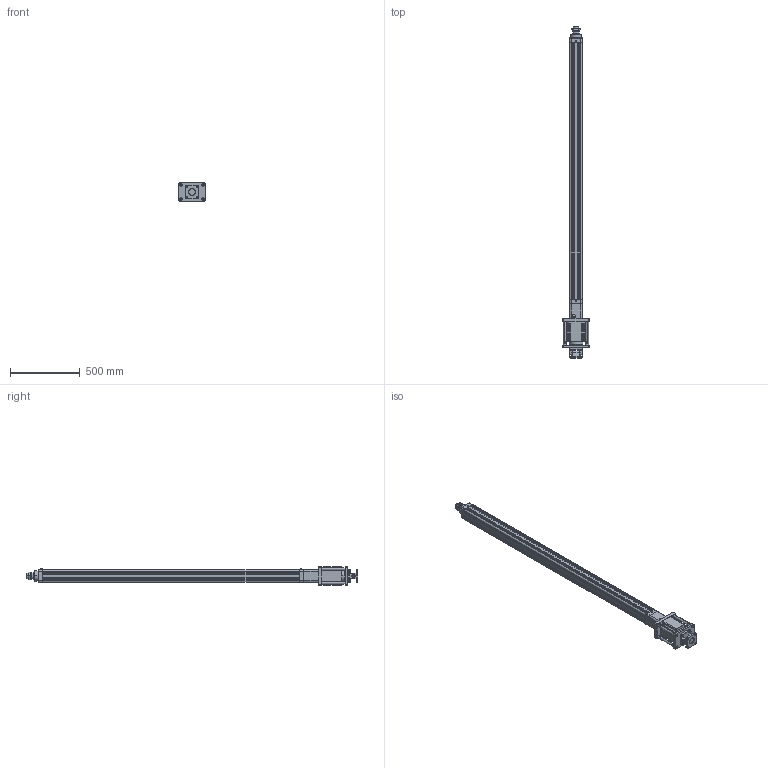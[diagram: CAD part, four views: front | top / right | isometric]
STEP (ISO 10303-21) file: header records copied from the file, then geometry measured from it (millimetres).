
FILE_DESCRIPTION((''),'2;1');
FILE_NAME('HE80-D-P_ASM','2020-05-14T',('ASUS20200'),(''),'CREO PARAMETRIC BY PTC INC, 2014190','CREO PARAMETRIC BY PTC INC, 2014190','');
FILE_SCHEMA(('CONFIG_CONTROL_DESIGN'));
Length unit declared in the file: millimetre
Products named in the file (29): HE80-D-P-001-X1; HE80-D-P-002-X1; HE80-D-P-003-X1; 30304J; YZ-M6X1; SLM-01; JDB506030; HE80-100-D-P-X1_ASM; HE80-D-009-X1; HE80-D-010-X1-130N; M10X110; SKT-20; M8X20; 130ST-M10010; JX6X6X40; TD-8; M8X40; HE80-D-P-005-X1; HE80-D-P-004-X1; HE80-D-P-008-X1; LGLM-M10-25; HE80-FB-LG; F-HE80FB; M10X30; F-SE80CB; F-SE80CB-XD; F-SE80CB_ASM; F-SE80CA; HE80-D-P_ASM
Assembly tree (59 placements, depth 3):
  HE80-D-P_ASM
    HE80-100-D-P-X1_ASM
      HE80-D-P-001-X1
      HE80-D-P-002-X1
      HE80-D-P-003-X1
      30304J  x2
      YZ-M6X1
      SLM-01
      JDB506030
    HE80-D-009-X1
    HE80-D-010-X1-130N
    M10X110  x4
    SKT-20  x2
    M8X20  x4
    130ST-M10010
    JX6X6X40
    TD-8  x4
    M8X40  x4
    HE80-D-P-005-X1
    HE80-D-P-004-X1
    HE80-D-P-008-X1
    LGLM-M10-25  x4
    HE80-FB-LG  x4
    F-HE80FB
    M10X30  x12
    F-SE80CB_ASM
      F-SE80CB
      F-SE80CB-XD
    F-SE80CA
Bounding box: 190 x 2379 x 130.01 mm (x, y, z)
Volume: 9490450.4 mm3; surface area: 2767537.8 mm2
Topology: 57 solids, 92 shells, 2342 faces, 5335 edges, 3254 vertices
Faces by surface type: plane 798, cylinder 686, cone 678, torus 146, sphere 30, bspline 4
Entity records: 48150 total; most frequent: CARTESIAN_POINT 8960, DIRECTION 8818, ORIENTED_EDGE 7392, EDGE_CURVE 3751, AXIS2_PLACEMENT_3D 3471, VERTEX_POINT 2286, EDGE_LOOP 1937, VECTOR 1876
